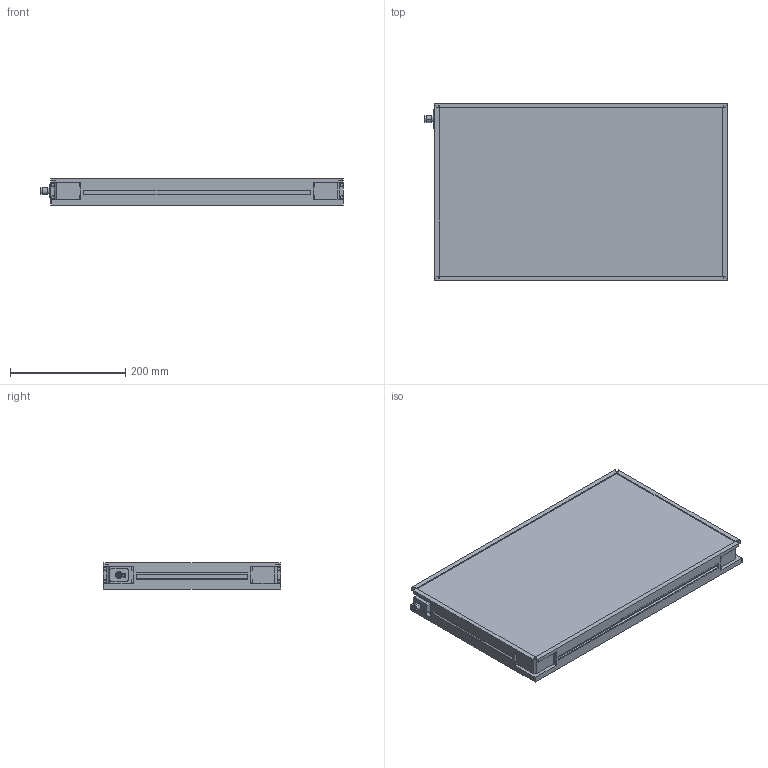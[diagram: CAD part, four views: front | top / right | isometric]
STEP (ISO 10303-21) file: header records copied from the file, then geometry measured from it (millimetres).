
FILE_DESCRIPTION (( 'STEP AP214' ), '1' );
FILE_NAME ('MBACK-xxxx-xxx-M1_CLIENT300x500.STEP', '2022-03-31T16:02:52', ( '' ), ( '' ), 'SwSTEP 2.0', 'SolidWorks 2020', '' );
FILE_SCHEMA (( 'AUTOMOTIVE_DESIGN' ));
Length unit declared in the file: millimetre
Products named in the file (1): MBACK-xxxx-xxx-M1_CLIENT300x500
Bounding box: 525.9 x 308 x 45.5 mm (x, y, z)
Volume: 6458647.5 mm3; surface area: 421091.1 mm2
Topology: 1 solids, 1 shells, 442 faces, 1144 edges, 760 vertices
Faces by surface type: plane 249, cylinder 105, bspline 80, cone 8
Entity records: 17236 total; most frequent: CARTESIAN_POINT 6699, ORIENTED_EDGE 2288, DIRECTION 1936, EDGE_CURVE 1144, VERTEX_POINT 760, VECTOR 758, LINE 758, AXIS2_PLACEMENT_3D 589
